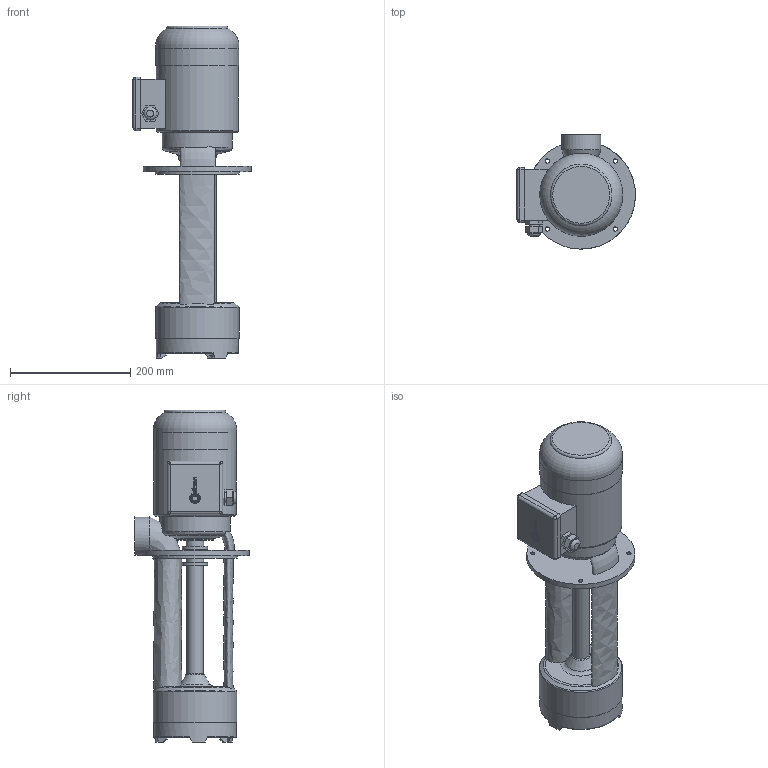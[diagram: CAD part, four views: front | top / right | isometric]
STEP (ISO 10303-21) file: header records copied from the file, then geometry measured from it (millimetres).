
FILE_DESCRIPTION(/* description */ ('Unknown'),/* implementation_level */ '2;1');
FILE_NAME(/* name */ 'EP 152-310',/* time_stamp */ '2023-03-28T15:11:06+03:00',/* author */ ('Unknown'),/* organization */ ('Unknown'),/* preprocessor_version */ 'ST-DEVELOPER v16.7',/* originating_system */ 'DEX',/* authorisation */ $);
FILE_SCHEMA (('AUTOMOTIVE_DESIGN {1 0 10303 214 3 1 1}'));
Length unit declared in the file: millimetre
Products named in the file (1): EP 152-310
Bounding box: 197.5 x 190 x 552.36 mm (x, y, z)
Volume: 5701253.3 mm3; surface area: 349039 mm2
Topology: 1 solids, 1 shells, 264 faces, 670 edges, 431 vertices
Faces by surface type: plane 91, bspline 81, cylinder 56, torus 26, cone 10
Full cylindrical faces by diameter (mm): 7 x4, 17 x1, 21.5 x1, 28 x1, 29 x3, 30 x1, 42 x2, 44 x1, 48 x1, 62 x1, 94 x1, 116.969 x1, 136.473 x1, 137 x1, 137.994 x1, 139 x1, 140 x1, 180 x1
Entity records: 11309 total; most frequent: CARTESIAN_POINT 5675, ORIENTED_EDGE 1204, DIRECTION 957, EDGE_CURVE 602, VERTEX_POINT 415, AXIS2_PLACEMENT_3D 364, EDGE_LOOP 355, FACE_BOUND 355
